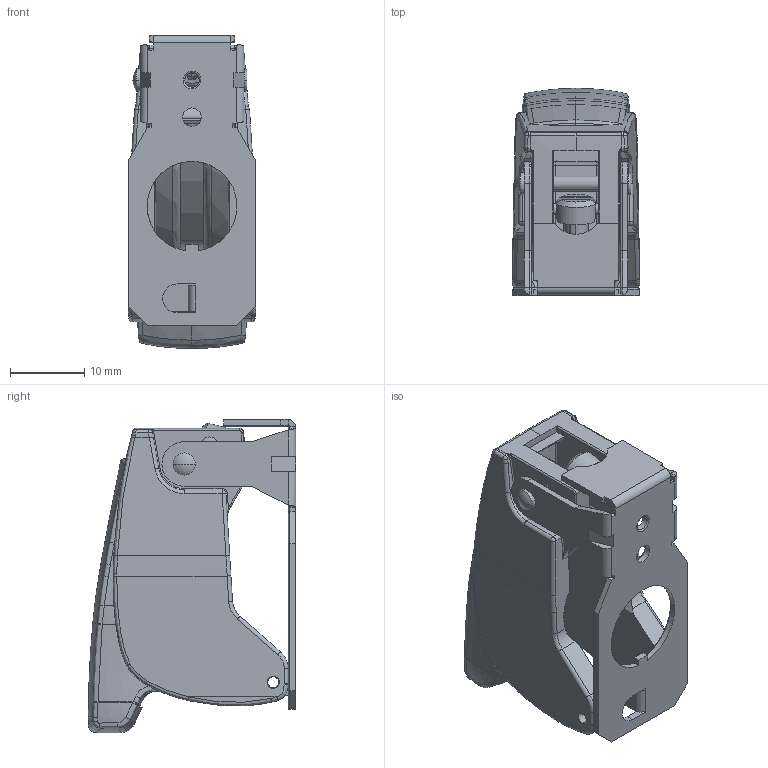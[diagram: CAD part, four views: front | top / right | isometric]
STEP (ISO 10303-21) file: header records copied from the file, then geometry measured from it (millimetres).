
FILE_DESCRIPTION((''),'2;1');
FILE_NAME('MSG22KS__SW0001','2014-12-23T',('brevel'),(''),'PRO/ENGINEER BY PARAMETRIC TECHNOLOGY CORPORATION, 2013410','PRO/ENGINEER BY PARAMETRIC TECHNOLOGY CORPORATION, 2013410','');
FILE_SCHEMA(('CONFIG_CONTROL_DESIGN'));
Length unit declared in the file: millimetre
Products named in the file (1): MSG22KS__SW0001
Bounding box: 17.16 x 27.9 x 42.15 mm (x, y, z)
Volume: 7557 mm3; surface area: 6353.4 mm2
Topology: 3 solids, 3 shells, 671 faces, 1760 edges, 1103 vertices
Faces by surface type: plane 268, cylinder 205, bspline 100, torus 56, cone 23, sphere 10, extrusion 9
Entity records: 25133 total; most frequent: CARTESIAN_POINT 9631, ORIENTED_EDGE 3490, DIRECTION 2816, EDGE_CURVE 1745, VERTEX_POINT 1103, AXIS2_PLACEMENT_3D 952, VECTOR 912, LINE 903
